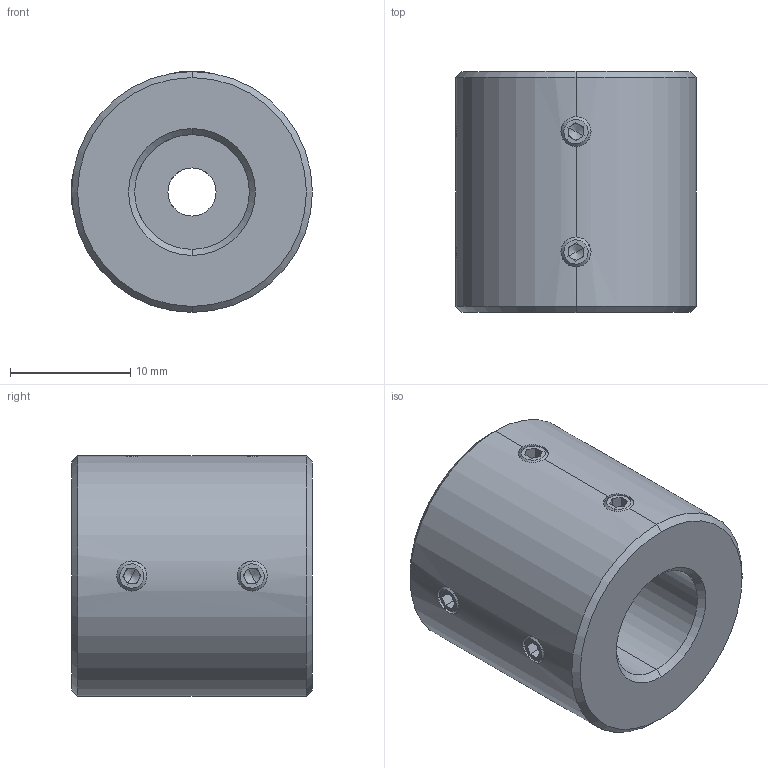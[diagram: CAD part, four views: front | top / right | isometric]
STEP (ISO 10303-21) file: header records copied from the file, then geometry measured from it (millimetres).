
FILE_DESCRIPTION (( 'STEP AP214' ), '1' );
FILE_NAME ('LL-D-D20L20-4-9.525.STEP', '2022-07-23T06:28:52', ( '' ), ( '' ), 'SwSTEP 2.0', 'SolidWorks 2022', '' );
FILE_SCHEMA (( 'AUTOMOTIVE_DESIGN' ));
Length unit declared in the file: millimetre
Products named in the file (1): LL-D-D20L20-4-9.525
Bounding box: 20 x 20 x 20 mm (x, y, z)
Volume: 5359.5 mm3; surface area: 2374.3 mm2
Topology: 1 solids, 1 shells, 113 faces, 286 edges, 176 vertices
Faces by surface type: plane 59, cone 32, cylinder 22
Entity records: 3640 total; most frequent: CARTESIAN_POINT 890, DIRECTION 582, ORIENTED_EDGE 556, EDGE_CURVE 278, AXIS2_PLACEMENT_3D 214, VERTEX_POINT 176, VECTOR 154, LINE 154
